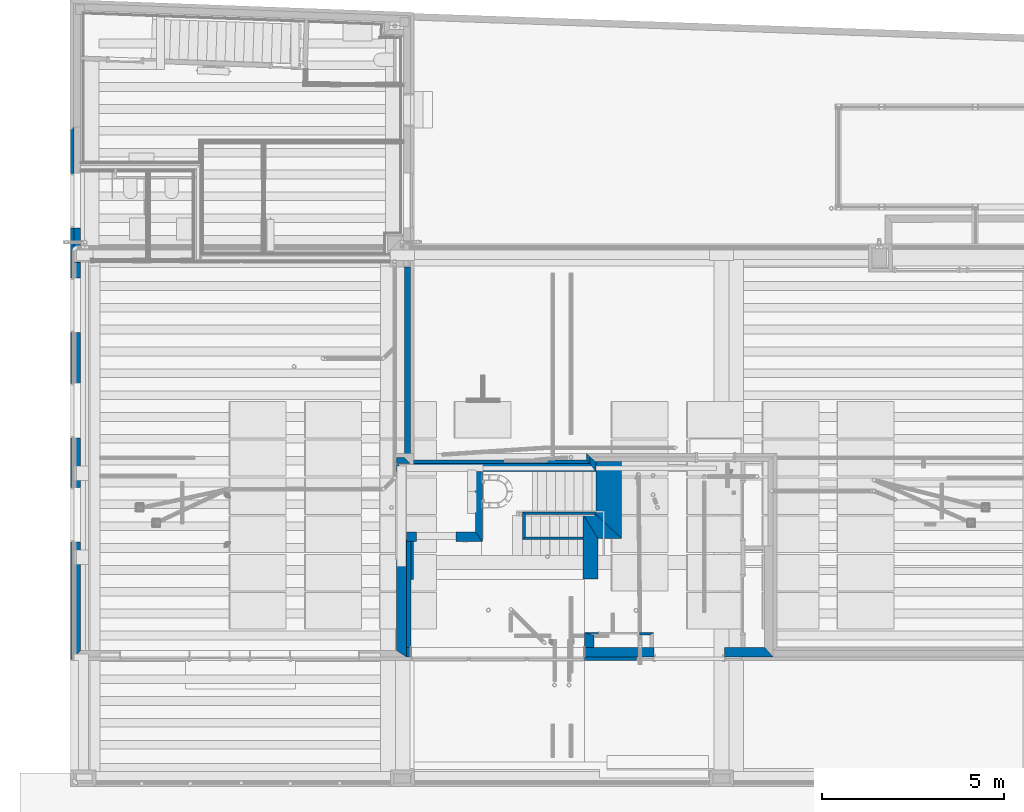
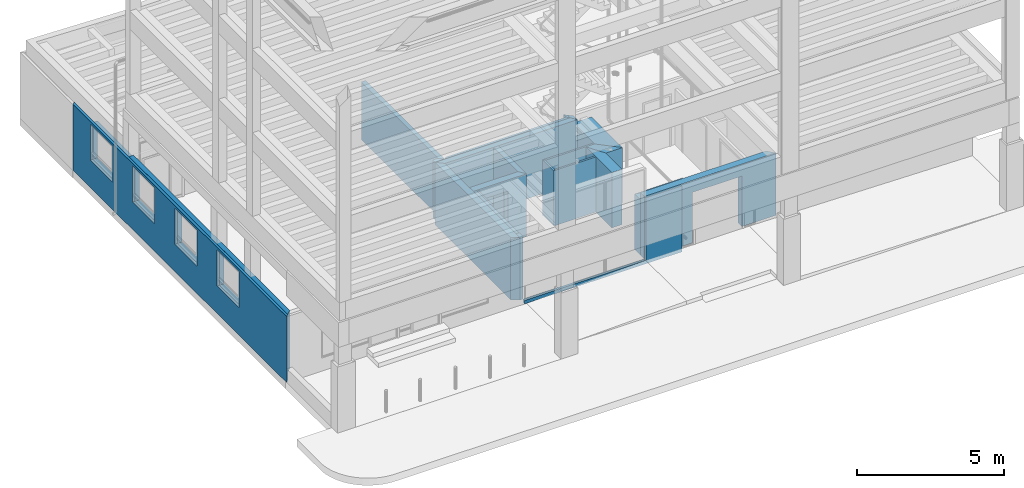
# One storey, part 7 of 106: 24 walls, 13 openings.
"""IFC2X3 building model written with IfcOpenShell, lengths in metres."""

from ifc_helpers import new_model, entity, si_unit, converted_unit, derived_unit, money_unit, direction, frame, frame_2d, origin_with_axes, place, context, subcontext, project, spatial, polyline, rectangle, outline, extrude, faceted_brep, material, layer, layer_set, layer_usage, type_object, element, save


model = new_model("IFC2X3")

# Units and contexts
model_context = context("Model", 3, precision=1e-05, world=origin_with_axes(), true_north=direction((0.0, 1.0)))
body_context = subcontext(model_context, "Body", "Model", "MODEL_VIEW", scale=1.0)
ifc_project = project(units=[si_unit("LENGTHUNIT", "METRE"), si_unit("AREAUNIT", "SQUARE_METRE"), si_unit("VOLUMEUNIT", "CUBIC_METRE"), si_unit("ABSORBEDDOSEUNIT", "GRAY"), si_unit("AMOUNTOFSUBSTANCEUNIT", "MOLE"), si_unit("DOSEEQUIVALENTUNIT", "SIEVERT"), si_unit("ELECTRICCAPACITANCEUNIT", "FARAD"), si_unit("ELECTRICCHARGEUNIT", "COULOMB"), si_unit("ELECTRICCONDUCTANCEUNIT", "SIEMENS"), si_unit("ELECTRICCURRENTUNIT", "AMPERE"), si_unit("ELECTRICRESISTANCEUNIT", "OHM"), si_unit("ELECTRICVOLTAGEUNIT", "VOLT"), si_unit("ENERGYUNIT", "JOULE"), si_unit("FORCEUNIT", "NEWTON"), si_unit("FREQUENCYUNIT", "HERTZ"), si_unit("ILLUMINANCEUNIT", "LUX"), si_unit("INDUCTANCEUNIT", "HENRY"), si_unit("LUMINOUSFLUXUNIT", "LUMEN"), si_unit("LUMINOUSINTENSITYUNIT", "CANDELA"), si_unit("MAGNETICFLUXDENSITYUNIT", "TESLA"), si_unit("MAGNETICFLUXUNIT", "WEBER"), si_unit("MASSUNIT", "GRAM"), converted_unit("PLANEANGLEUNIT", "degree", entity("IfcReal", 0.0174532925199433), si_unit("PLANEANGLEUNIT", "RADIAN"), dimensions=[0, 0, 0, 0, 0, 0, 0]), si_unit("POWERUNIT", "WATT"), si_unit("PRESSUREUNIT", "PASCAL"), si_unit("RADIOACTIVITYUNIT", "BECQUEREL"), si_unit("SOLIDANGLEUNIT", "STERADIAN"), si_unit("THERMODYNAMICTEMPERATUREUNIT", "KELVIN"), si_unit("TIMEUNIT", "SECOND"), derived_unit("ACCELERATIONUNIT", [(si_unit("LENGTHUNIT", "METRE"), 1), (si_unit("TIMEUNIT", "SECOND"), -2)]), derived_unit("ANGULARVELOCITYUNIT", [(converted_unit("PLANEANGLEUNIT", "degree", entity("IfcReal", 0.0174532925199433), si_unit("PLANEANGLEUNIT", "RADIAN"), dimensions=[0, 0, 0, 0, 0, 0, 0]), 1), (si_unit("TIMEUNIT", "SECOND"), -1)]), derived_unit("CURVATUREUNIT", [(converted_unit("PLANEANGLEUNIT", "degree", entity("IfcReal", 0.0174532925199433), si_unit("PLANEANGLEUNIT", "RADIAN"), dimensions=[0, 0, 0, 0, 0, 0, 0]), 1), (si_unit("LENGTHUNIT", "METRE"), -1)]), derived_unit("DYNAMICVISCOSITYUNIT", [(si_unit("PRESSUREUNIT", "PASCAL"), 1), (si_unit("TIMEUNIT", "SECOND"), 1)]), derived_unit("HEATFLUXDENSITYUNIT", [(si_unit("POWERUNIT", "WATT"), 1), (si_unit("LENGTHUNIT", "METRE"), -2)]), derived_unit("HEATINGVALUEUNIT", [(si_unit("ENERGYUNIT", "JOULE"), 1), (si_unit("MASSUNIT", "GRAM"), -1)]), derived_unit("INTEGERCOUNTRATEUNIT", [(si_unit("TIMEUNIT", "SECOND"), -1)]), derived_unit("IONCONCENTRATIONUNIT", [(si_unit("MASSUNIT", "GRAM"), 1), (si_unit("VOLUMEUNIT", "CUBIC_METRE"), -1)]), derived_unit("ISOTHERMALMOISTURECAPACITYUNIT", [(si_unit("VOLUMEUNIT", "CUBIC_METRE"), 1), (si_unit("MASSUNIT", "GRAM"), -1)]), derived_unit("KINEMATICVISCOSITYUNIT", [(si_unit("AREAUNIT", "SQUARE_METRE"), 1), (si_unit("TIMEUNIT", "SECOND"), -1)]), derived_unit("LINEARFORCEUNIT", [(si_unit("FORCEUNIT", "NEWTON"), 1), (si_unit("LENGTHUNIT", "METRE"), -1)]), derived_unit("LINEARMOMENTUNIT", [(si_unit("FORCEUNIT", "NEWTON"), 1), (si_unit("LENGTHUNIT", "METRE"), -1)]), derived_unit("LINEARSTIFFNESSUNIT", [(si_unit("FORCEUNIT", "NEWTON"), 1), (si_unit("LENGTHUNIT", "METRE"), -1)]), derived_unit("LINEARVELOCITYUNIT", [(si_unit("LENGTHUNIT", "METRE"), 1), (si_unit("TIMEUNIT", "SECOND"), -1)]), derived_unit("LUMINOUSINTENSITYDISTRIBUTIONUNIT", [(si_unit("LUMINOUSINTENSITYUNIT", "CANDELA"), 1), (si_unit("LUMINOUSFLUXUNIT", "LUMEN"), -1)]), derived_unit("MASSDENSITYUNIT", [(si_unit("MASSUNIT", "GRAM"), 1), (si_unit("VOLUMEUNIT", "CUBIC_METRE"), -1)]), derived_unit("MASSFLOWRATEUNIT", [(si_unit("MASSUNIT", "GRAM"), 1), (si_unit("TIMEUNIT", "SECOND"), -1)]), derived_unit("MASSPERLENGTHUNIT", [(si_unit("MASSUNIT", "GRAM"), 1), (si_unit("LENGTHUNIT", "METRE"), -1)]), derived_unit("MODULUSOFELASTICITYUNIT", [(si_unit("FORCEUNIT", "NEWTON"), 1), (si_unit("AREAUNIT", "SQUARE_METRE"), -1)]), derived_unit("MODULUSOFLINEARSUBGRADEREACTIONUNIT", [(si_unit("FORCEUNIT", "NEWTON"), 1), (si_unit("LENGTHUNIT", "METRE"), -2)]), derived_unit("MODULUSOFROTATIONALSUBGRADEREACTIONUNIT", [(si_unit("FORCEUNIT", "NEWTON"), 1), (si_unit("LENGTHUNIT", "METRE"), 1)]), derived_unit("MODULUSOFSUBGRADEREACTIONUNIT", [(si_unit("FORCEUNIT", "NEWTON"), 1), (si_unit("VOLUMEUNIT", "CUBIC_METRE"), -1)]), derived_unit("MOISTUREDIFFUSIVITYUNIT", [(si_unit("VOLUMEUNIT", "CUBIC_METRE"), 1), (si_unit("TIMEUNIT", "SECOND"), -1)]), derived_unit("MOLECULARWEIGHTUNIT", [(si_unit("MASSUNIT", "GRAM"), 1), (si_unit("AMOUNTOFSUBSTANCEUNIT", "MOLE"), -1)]), derived_unit("PLANARFORCEUNIT", [(si_unit("FORCEUNIT", "NEWTON"), 1), (si_unit("LENGTHUNIT", "METRE"), -2)]), derived_unit("ROTATIONALFREQUENCYUNIT", [(si_unit("TIMEUNIT", "SECOND"), -1)]), derived_unit("ROTATIONALMASSUNIT", [(si_unit("MASSUNIT", "GRAM"), 1), (si_unit("LENGTHUNIT", "METRE"), 2)]), derived_unit("ROTATIONALSTIFFNESSUNIT", [(si_unit("FORCEUNIT", "NEWTON"), 1), (si_unit("LENGTHUNIT", "METRE"), 1), (converted_unit("PLANEANGLEUNIT", "degree", entity("IfcReal", 0.0174532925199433), si_unit("PLANEANGLEUNIT", "RADIAN"), dimensions=[0, 0, 0, 0, 0, 0, 0]), -1)]), derived_unit("SECTIONAREAINTEGRALUNIT", [(si_unit("LENGTHUNIT", "METRE"), 5)]), derived_unit("SECTIONMODULUSUNIT", [(si_unit("LENGTHUNIT", "METRE"), 3)]), derived_unit("SHEARMODULUSUNIT", [(si_unit("FORCEUNIT", "NEWTON"), 1), (si_unit("AREAUNIT", "SQUARE_METRE"), -1)]), derived_unit("SOUNDPOWERUNIT", [(si_unit("ENERGYUNIT", "JOULE"), 1), (si_unit("TIMEUNIT", "SECOND"), -1)]), derived_unit("SPECIFICHEATCAPACITYUNIT", [(si_unit("FORCEUNIT", "NEWTON"), 1), (si_unit("MASSUNIT", "GRAM"), -1), (si_unit("THERMODYNAMICTEMPERATUREUNIT", "KELVIN"), -1)]), derived_unit("TEMPERATUREGRADIENTUNIT", [(si_unit("THERMODYNAMICTEMPERATUREUNIT", "KELVIN"), 1), (si_unit("LENGTHUNIT", "METRE"), -1)]), derived_unit("THERMALADMITTANCEUNIT", [(si_unit("POWERUNIT", "WATT"), 1), (si_unit("AREAUNIT", "SQUARE_METRE"), -1), (si_unit("THERMODYNAMICTEMPERATUREUNIT", "KELVIN"), -1)]), derived_unit("THERMALCONDUCTANCEUNIT", [(si_unit("POWERUNIT", "WATT"), 1), (si_unit("LENGTHUNIT", "METRE"), -1), (si_unit("THERMODYNAMICTEMPERATUREUNIT", "KELVIN"), -1)]), derived_unit("THERMALEXPANSIONCOEFFICIENTUNIT", [(si_unit("THERMODYNAMICTEMPERATUREUNIT", "KELVIN"), -1)]), derived_unit("THERMALRESISTANCEUNIT", [(si_unit("AREAUNIT", "SQUARE_METRE"), 1), (si_unit("POWERUNIT", "WATT"), -1)]), derived_unit("THERMALTRANSMITTANCEUNIT", [(si_unit("POWERUNIT", "WATT"), 1), (si_unit("AREAUNIT", "SQUARE_METRE"), -1), (si_unit("THERMODYNAMICTEMPERATUREUNIT", "KELVIN"), -1)]), derived_unit("TORQUEUNIT", [(si_unit("FORCEUNIT", "NEWTON"), 1), (si_unit("LENGTHUNIT", "METRE"), 1)]), derived_unit("VAPORPERMEABILITYUNIT", [(si_unit("MASSUNIT", "GRAM"), 1), (si_unit("TIMEUNIT", "SECOND"), -1)]), derived_unit("VOLUMETRICFLOWRATEUNIT", [(si_unit("VOLUMEUNIT", "CUBIC_METRE"), 1), (si_unit("TIMEUNIT", "SECOND"), -1)]), derived_unit("WARPINGCONSTANTUNIT", [(si_unit("LENGTHUNIT", "METRE"), 6)]), derived_unit("WARPINGMOMENTUNIT", [(si_unit("FORCEUNIT", "NEWTON"), 1), (si_unit("LENGTHUNIT", "METRE"), 2)]), money_unit("GBP")], contexts=[model_context])

# Site, building, storey
site_placement = place(None, origin_with_axes())
site = spatial("IfcSite", under=ifc_project, at=site_placement, Name="Site", CompositionType="ELEMENT")
building_placement = place(site_placement, origin_with_axes())
building = spatial("IfcBuilding", under=site, at=building_placement, Name="Building01", CompositionType="ELEMENT")
storey_placement = place(building_placement, origin_with_axes())
storey = spatial("IfcBuildingStorey", under=building, at=storey_placement, Name="GF", CompositionType="ELEMENT", Elevation=0.0)

# Wall
ifc_material_1 = material(Name="A_BSUK_WallsExternal_Brick")
ifc_layer_1 = layer(ifc_material_1, 0.1, ventilated=False)
ifc_layer_set_1 = layer_set([ifc_layer_1])
ifc_layer_usage_1 = layer_usage(ifc_layer_set_1, "AXIS2", "POSITIVE", 0.0)
wall_type_1 = type_object("IfcWallType", Name="A-Walls-ExternalBrick", PredefinedType="NOTDEFINED")
wall_1_placement = place(storey_placement, frame((14.172347, 8.971346, -0.16), z_axis=(0.0, 0.0, 1.0), x_axis=(-1.0, 3.756e-05, 0.0)))
element("IfcWallStandardCase", 1, at=wall_1_placement, inside=storey, type_object=wall_type_1, material=ifc_layer_usage_1, Name="A-Walls-ExternalBrick", ObjectType="A-Walls-ExternalBrick", context=body_context, shape_type="SweptSolid", body=[
    extrude(outline(polyline([(4.829309, 0.1), (-0.1, 0.1), (0.0, 0.0), (4.729309, 0.0), (4.829309, 0.1)])), origin_with_axes(), (0.0, 0.0, 1.0), 2.76),
])

# Wall, openings
wall_2_placement = place(storey_placement, frame((0.000677, 18.020229, -0.145), z_axis=(0.0, 0.0, 1.0), x_axis=(-3.756e-05, -1.0, 0.0)))
wall_2 = element("IfcWallStandardCase", 2, at=wall_2_placement, inside=storey, type_object=wall_type_1, material=ifc_layer_usage_1, Name="A-Walls-ExternalBrick", ObjectType="A-Walls-ExternalBrick", context=body_context, shape_type="SweptSolid", body=[
    extrude(outline(polyline([(14.460712, 0.1), (-0.100004, 0.1), (0.0, 0.0), (14.560712, 0.0), (14.460712, 0.1)])), origin_with_axes(), (0.0, 0.0, 1.0), 2.745),
])
opening_1_placement = place(wall_2_placement, frame((6.944757, 0.0, 1.143), z_axis=(0.0, 0.0, 1.0), x_axis=(1.0, 0.0, 0.0)))
element("IfcOpeningElement", 3, at=opening_1_placement, cuts=wall_2, Name="Opening", ObjectType="Opening", context=body_context, shape_type="Brep", body=[
    faceted_brep([(1.5, 0.1, 0.0), (0.0, 0.1, 0.0), (0.0, 0.1, 1.5), (1.5, 0.1, 1.5), (4e-06, 0.0, 0.0), (1.500004, 0.0, 0.0), (4e-06, 0.0, 1.5), (1.500004, 0.0, 1.5)], [[[0, 1, 2, 3]], [[4, 1, 0, 5]], [[6, 2, 1, 4]], [[5, 0, 3, 7]], [[4, 5, 7, 6]], [[7, 3, 2, 6]]]),
])
opening_2_placement = place(wall_2_placement, frame((9.809487, 0.0, 1.143), z_axis=(0.0, 0.0, 1.0), x_axis=(1.0, 0.0, 0.0)))
element("IfcOpeningElement", 4, at=opening_2_placement, cuts=wall_2, Name="Opening", ObjectType="Opening", context=body_context, shape_type="Brep", body=[
    faceted_brep([(1.5, 0.1, 0.0), (0.0, 0.1, 0.0), (0.0, 0.1, 1.5), (1.5, 0.1, 1.5), (4e-06, 0.0, 1.5), (4e-06, 0.0, 0.0), (1.500004, 0.0, 1.5), (1.500004, 0.0, 0.0)], [[[0, 1, 2, 3]], [[4, 2, 1, 5]], [[6, 3, 2, 4]], [[7, 0, 3, 6]], [[5, 7, 6, 4]], [[5, 1, 0, 7]]]),
])
opening_3_placement = place(wall_2_placement, frame((4.051232, 0.0, 1.143), z_axis=(0.0, 0.0, 1.0), x_axis=(1.0, 0.0, 0.0)))
element("IfcOpeningElement", 5, at=opening_3_placement, cuts=wall_2, Name="Opening", ObjectType="Opening", context=body_context, shape_type="Brep", body=[
    faceted_brep([(1.5, 0.1, 0.0), (0.0, 0.1, 0.0), (0.0, 0.1, 1.5), (1.5, 0.1, 1.5), (4e-06, 0.0, 0.0), (1.500004, 0.0, 0.0), (4e-06, 0.0, 1.5), (1.500004, 0.0, 1.5)], [[[0, 1, 2, 3]], [[4, 1, 0, 5]], [[6, 2, 1, 4]], [[5, 0, 3, 7]], [[4, 5, 7, 6]], [[7, 3, 2, 6]]]),
])
opening_4_placement = place(wall_2_placement, frame((1.177435, 0.0, 1.143), z_axis=(0.0, 0.0, 1.0), x_axis=(1.0, 0.0, 0.0)))
element("IfcOpeningElement", 6, at=opening_4_placement, cuts=wall_2, Name="Opening", ObjectType="Opening", context=body_context, shape_type="Brep", body=[
    faceted_brep([(1.5, 0.1, 0.0), (0.0, 0.1, 0.0), (0.0, 0.1, 1.5), (1.5, 0.1, 1.5), (4e-06, 0.0, 1.5), (4e-06, 0.0, 0.0), (1.500004, 0.0, 1.5), (1.500004, 0.0, 0.0)], [[[0, 1, 2, 3]], [[4, 2, 1, 5]], [[6, 3, 2, 4]], [[7, 0, 3, 6]], [[5, 7, 6, 4]], [[5, 1, 0, 7]]]),
])

# Wall, opening
wall_3_placement = place(storey_placement, frame((9.354092, 3.458823, -0.145), z_axis=(0.0, 0.0, 1.0), x_axis=(1.0, -3.756e-05, 0.0)))
wall_3 = element("IfcWallStandardCase", 7, at=wall_3_placement, inside=storey, type_object=wall_type_1, material=ifc_layer_usage_1, Name="A-Walls-ExternalBrick", ObjectType="A-Walls-ExternalBrick", context=body_context, shape_type="SweptSolid", body=[
    extrude(rectangle(XDim=6.191074, YDim=0.1, at=frame_2d((3.095537, 0.05), x_axis=(-1.0, 0.0))), origin_with_axes(), (0.0, 0.0, 1.0), 2.745),
])
opening_5_placement = place(wall_3_placement, frame((4e-06, 0.0, 0.145), z_axis=(0.0, 0.0, 1.0), x_axis=(1.0, 0.0, 0.0)))
element("IfcOpeningElement", 8, at=opening_5_placement, cuts=wall_3, Name="Opening", ObjectType="Opening", context=body_context, shape_type="Brep", body=[
    faceted_brep([(0.0, 0.1, 2.6), (4e-06, 0.0, 2.6), (4.770004, 0.0, 2.6), (4.77, 0.1, 2.6), (4e-06, 0.0, 0.0), (4.770004, 0.0, 0.0), (0.0, 0.1, 0.0), (4.77, 0.1, 0.0)], [[[0, 1, 2, 3]], [[1, 4, 5, 2]], [[6, 0, 3, 7]], [[0, 6, 4, 1]], [[4, 6, 7, 5]], [[2, 5, 7, 3]]]),
])

# Walls
ifc_material_2 = material(Name="A_BSUK_WallsExternal_Block")
ifc_layer_2 = layer(ifc_material_2, 0.1, ventilated=False)
ifc_layer_set_2 = layer_set([ifc_layer_2])
ifc_layer_usage_2 = layer_usage(ifc_layer_set_2, "AXIS2", "POSITIVE", 0.0)
wall_type_2 = type_object("IfcWallType", Name="A-Walls-ExternalBlock", PredefinedType="NOTDEFINED")
wall_4_placement = place(storey_placement, frame((14.172354, 9.15305, -0.16), z_axis=(0.0, 0.0, 1.0), x_axis=(-3.756e-05, -1.0, 0.0)))
element("IfcWallStandardCase", 9, at=wall_4_placement, inside=storey, type_object=wall_type_2, material=ifc_layer_usage_2, Name="A-Walls-ExternalBlock", ObjectType="A-Walls-ExternalBlock", context=body_context, shape_type="SweptSolid", body=[
    extrude(outline(polyline([(0.281704, 0.1), (0.1, 0.1), (0.0, 0.0), (0.181704, 0.0), (0.281704, 0.1)])), origin_with_axes(), (0.0, 0.0, 1.0), 2.76),
])
ifc_layer_3 = layer(ifc_material_2, 0.17, ventilated=False)
ifc_layer_set_3 = layer_set([ifc_layer_3])
ifc_layer_usage_3 = layer_usage(ifc_layer_set_3, "AXIS2", "POSITIVE", 0.0)
wall_5_placement = place(storey_placement, frame((9.173127, 14.271539, 0.198), z_axis=(0.0, 0.0, 1.0), x_axis=(0.0, -1.0, 0.0)))
element("IfcWallStandardCase", 10, at=wall_5_placement, inside=storey, type_object=wall_type_2, material=ifc_layer_usage_3, Name="A-Walls-ExternalBlock", ObjectType="A-Walls-ExternalBlock", context=body_context, shape_type="SweptSolid", body=[
    extrude(outline(polyline([(5.400398, 0.17), (0.0, 0.17), (0.0, 0.0), (5.236398, 0.0), (5.400398, 0.17)])), origin_with_axes(), (0.0, 0.0, 1.0), 2.402),
])
ifc_layer_4 = layer(ifc_material_2, 0.264900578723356, ventilated=False)
ifc_layer_set_4 = layer_set([ifc_layer_4])
ifc_layer_usage_4 = layer_usage(ifc_layer_set_4, "AXIS2", "POSITIVE", 0.0)
wall_6_placement = place(storey_placement, frame((9.229999, 3.559332, 0.0), z_axis=(0.0, 0.0, 1.0), x_axis=(0.0, 1.0, 0.0)))
element("IfcWallStandardCase", 11, at=wall_6_placement, inside=storey, type_object=wall_type_2, material=ifc_layer_usage_4, Name="A-Walls-ExternalBlock", ObjectType="A-Walls-ExternalBlock", context=body_context, shape_type="SweptSolid", body=[
    extrude(outline(polyline([(5.312078, 0.264901), (0.174, 0.264901), (0.0, 0.0), (5.088078, 0.0), (5.312078, 0.264901)])), origin_with_axes(), (0.0, 0.0, 1.0), 2.6),
])
ifc_layer_5 = layer(ifc_material_2, 0.164, ventilated=False)
ifc_layer_set_5 = layer_set([ifc_layer_5])
ifc_layer_usage_5 = layer_usage(ifc_layer_set_5, "AXIS2", "POSITIVE", 0.0)
wall_7_placement = place(storey_placement, frame((9.173127, 9.035141, 0.198), z_axis=(0.0, 0.0, 1.0), x_axis=(-1.0, 0.0, 0.0)))
element("IfcWallStandardCase", 12, at=wall_7_placement, inside=storey, type_object=wall_type_2, material=ifc_layer_usage_5, Name="A-Walls-ExternalBlock", ObjectType="A-Walls-ExternalBlock", context=body_context, shape_type="SweptSolid", body=[
    extrude(outline(polyline([(-0.17, 0.164), (0.0, 0.0), (0.207627, 0.0), (0.207627, 0.164), (-0.17, 0.164)])), origin_with_axes(), (0.0, 0.0, 1.0), 2.402),
])

# Wall, openings
ifc_layer_6 = layer(ifc_material_2, 0.18, ventilated=False)
ifc_layer_set_6 = layer_set([ifc_layer_6])
ifc_layer_usage_6 = layer_usage(ifc_layer_set_6, "AXIS2", "POSITIVE", 0.0)
wall_8_placement = place(storey_placement, frame((0.280357, 3.733332, 0.198), z_axis=(0.0, 0.0, 1.0), x_axis=(3.756e-05, 1.0, 0.0)))
wall_8 = element("IfcWallStandardCase", 13, at=wall_8_placement, inside=storey, type_object=wall_type_2, material=ifc_layer_usage_6, Name="A-Walls-ExternalBlock", ObjectType="A-Walls-ExternalBlock", context=body_context, shape_type="SweptSolid", body=[
    extrude(outline(polyline([(10.65662, 0.18), (-0.174007, 0.18), (0.0, 0.0), (10.65662, 0.0), (10.65662, 0.18)])), origin_with_axes(), (0.0, 0.0, 1.0), 2.402),
])
opening_6_placement = place(wall_8_placement, frame((5.842129, 0.0, 0.8), z_axis=(0.0, 0.0, 1.0), x_axis=(1.0, 0.0, 0.0)))
element("IfcOpeningElement", 14, at=opening_6_placement, cuts=wall_8, Name="Opening", ObjectType="Opening", context=body_context, shape_type="Brep", body=[
    faceted_brep([(1.5, 0.18, 0.0), (0.0, 0.18, 0.0), (0.0, 0.18, 1.5), (1.5, 0.18, 1.5), (1.500007, 0.0, 0.0), (7e-06, 0.0, 0.0), (1.500007, 0.0, 1.5), (7e-06, 0.0, 1.5)], [[[0, 1, 2, 3]], [[0, 4, 5, 1]], [[3, 6, 4, 0]], [[1, 5, 7, 2]], [[5, 4, 6, 7]], [[2, 7, 6, 3]]]),
])
opening_7_placement = place(wall_8_placement, frame((8.735654, 0.0, 0.8), z_axis=(0.0, 0.0, 1.0), x_axis=(1.0, 0.0, 0.0)))
element("IfcOpeningElement", 15, at=opening_7_placement, cuts=wall_8, Name="Opening", ObjectType="Opening", context=body_context, shape_type="Brep", body=[
    faceted_brep([(1.5, 0.18, 0.0), (0.0, 0.18, 0.0), (0.0, 0.18, 1.5), (1.5, 0.18, 1.5), (1.500007, 0.0, 0.0), (7e-06, 0.0, 0.0), (1.500007, 0.0, 1.5), (7e-06, 0.0, 1.5)], [[[0, 1, 2, 3]], [[0, 4, 5, 1]], [[3, 6, 4, 0]], [[1, 5, 7, 2]], [[5, 4, 6, 7]], [[2, 7, 6, 3]]]),
])
opening_8_placement = place(wall_8_placement, frame((2.977399, 0.0, 0.8), z_axis=(0.0, 0.0, 1.0), x_axis=(1.0, 0.0, 0.0)))
element("IfcOpeningElement", 16, at=opening_8_placement, cuts=wall_8, Name="Opening", ObjectType="Opening", context=body_context, shape_type="Brep", body=[
    faceted_brep([(1.5, 0.18, 1.5), (1.5, 0.18, 0.0), (0.0, 0.18, 0.0), (0.0, 0.18, 1.5), (1.500007, 0.0, 0.0), (7e-06, 0.0, 0.0), (1.500007, 0.0, 1.5), (7e-06, 0.0, 1.5)], [[[0, 1, 2, 3]], [[1, 4, 5, 2]], [[6, 4, 1, 0]], [[2, 5, 7, 3]], [[5, 4, 6, 7]], [[3, 7, 6, 0]]]),
])

# Walls
ifc_layer_7 = layer(ifc_material_2, 0.159, ventilated=False)
ifc_layer_set_7 = layer_set([ifc_layer_7])
ifc_layer_usage_7 = layer_usage(ifc_layer_set_7, "AXIS2", "POSITIVE", 0.0)
wall_9_placement = place(storey_placement, frame((14.27235, 9.053145, 0.0), z_axis=(0.0, 0.0, 1.0), x_axis=(0.0, -1.0, 0.0)))
element("IfcWallStandardCase", 17, at=wall_9_placement, inside=storey, type_object=wall_type_2, material=ifc_layer_usage_7, Name="A-Walls-ExternalBlock", ObjectType="A-Walls-ExternalBlock", context=body_context, shape_type="SweptSolid", body=[
    extrude(outline(polyline([(0.405736, 0.159), (0.131, 0.159), (0.0, 0.0), (0.181736, 0.0), (0.405736, 0.159)])), origin_with_axes(), (0.0, 0.0, 1.0), 2.6),
])
ifc_layer_8 = layer(ifc_material_2, 0.224, ventilated=False)
ifc_layer_set_8 = layer_set([ifc_layer_8])
ifc_layer_usage_8 = layer_usage(ifc_layer_set_8, "AXIS2", "POSITIVE", 0.0)
wall_10_placement = place(storey_placement, frame((9.229999, 8.64741, 0.0), z_axis=(0.0, 0.0, 1.0), x_axis=(1.0, 0.0, 0.0)))
element("IfcWallStandardCase", 18, at=wall_10_placement, inside=storey, type_object=wall_type_2, material=ifc_layer_usage_8, Name="A-Walls-ExternalBlock", ObjectType="A-Walls-ExternalBlock", context=body_context, shape_type="SweptSolid", body=[
    extrude(outline(polyline([(5.042351, 0.224), (-0.264901, 0.224), (0.0, 0.0), (5.201351, 0.0), (5.042351, 0.224)])), origin_with_axes(), (0.0, 0.0, 1.0), 2.6),
])
ifc_layer_9 = layer(ifc_material_2, 0.065, ventilated=False)
ifc_layer_set_9 = layer_set([ifc_layer_9])
ifc_layer_usage_9 = layer_usage(ifc_layer_set_9, "AXIS2", "POSITIVE", 0.0)
wall_11_placement = place(storey_placement, frame((9.354099, 6.725761, 0.0), z_axis=(0.0, 0.0, 1.0), x_axis=(0.0, -1.0, 0.0)))
element("IfcWallStandardCase", 19, at=wall_11_placement, inside=storey, type_object=wall_type_2, material=ifc_layer_usage_9, Name="A-Walls-ExternalBlock", ObjectType="A-Walls-ExternalBlock", context=body_context, shape_type="SweptSolid", body=[
    extrude(rectangle(XDim=0.065, YDim=1.032712, at=frame_2d((0.516356, 0.0325), x_axis=(0.0, -1.0))), origin_with_axes(), (0.0, 0.0, 1.0), 2.6),
])

# Wall, openings
ifc_layer_10 = layer(ifc_material_2, 0.265, ventilated=False)
ifc_layer_set_10 = layer_set([ifc_layer_10])
ifc_layer_usage_10 = layer_usage(ifc_layer_set_10, "AXIS2", "POSITIVE", 0.0)
wall_12_placement = place(storey_placement, frame((19.069772, 3.823962, 0.0), z_axis=(0.0, 0.0, 1.0), x_axis=(-1.0, 0.0, 0.0)))
wall_12 = element("IfcWallStandardCase", 20, at=wall_12_placement, inside=storey, type_object=wall_type_2, material=ifc_layer_usage_10, Name="A-Walls-ExternalBlock", ObjectType="A-Walls-ExternalBlock", context=body_context, shape_type="SweptSolid", body=[
    extrude(outline(polyline([(9.839772, 0.265), (-0.233, 0.265), (0.0, 0.0), (9.839772, 0.0), (9.839772, 0.265)])), origin_with_axes(), (0.0, 0.0, 1.0), 2.6),
])
opening_9_placement = place(wall_12_placement, frame((1.109549, 0.0, 0.0), z_axis=(0.0, 0.0, 1.0), x_axis=(1.0, 0.0, 0.0)))
element("IfcOpeningElement", 21, at=opening_9_placement, cuts=wall_12, Name="Opening", ObjectType="Opening", context=body_context, shape_type="SweptSolid", body=[
    extrude(rectangle(XDim=2.1, YDim=1.934, at=frame_2d((-0.967, 1.05), x_axis=(0.0, -1.0))), frame((0.0, 0.0, 0.0), z_axis=(0.0, 1.0, 0.0), x_axis=(-1.0, 0.0, 0.0)), (0.0, 0.0, 1.0), 0.265),
])
opening_10_placement = place(wall_12_placement, frame((4.945672, 0.0, 0.0), z_axis=(0.0, 0.0, 1.0), x_axis=(1.0, 0.0, 0.0)))
element("IfcOpeningElement", 22, at=opening_10_placement, cuts=wall_12, Name="Opening", ObjectType="Opening", context=body_context, shape_type="SweptSolid", body=[
    extrude(rectangle(XDim=3.83, YDim=4.77, at=frame_2d((-2.385, 1.915), x_axis=(0.0, 1.0))), frame((0.0, 0.0, 0.0), z_axis=(0.0, 1.0, 0.0), x_axis=(-1.0, 0.0, 0.0)), (0.0, 0.0, 1.0), 0.265),
])

# Wall
ifc_layer_11 = layer(ifc_material_2, 0.1241, ventilated=False)
ifc_layer_set_11 = layer_set([ifc_layer_11])
ifc_layer_usage_11 = layer_usage(ifc_layer_set_11, "AXIS2", "POSITIVE", 0.0)
wall_13_placement = place(storey_placement, frame((9.229999, 6.725761, 0.0), z_axis=(0.0, 0.0, 1.0), x_axis=(0.0, -1.0, 0.0)))
element("IfcWallStandardCase", 23, at=wall_13_placement, inside=storey, type_object=wall_type_2, material=ifc_layer_usage_11, Name="A-Walls-ExternalBlock", ObjectType="A-Walls-ExternalBlock", context=body_context, shape_type="SweptSolid", body=[
    extrude(rectangle(XDim=2.901799, YDim=0.1241, at=frame_2d((1.4509, 0.06205), x_axis=(-1.0, 0.0))), origin_with_axes(), (0.0, 0.0, 1.0), 2.6),
])

# Wall, opening
ifc_material_3 = material(Name="A_BSUK_WallsInternal_Block")
ifc_layer_12 = layer(ifc_material_3, 0.18, ventilated=False)
ifc_layer_set_12 = layer_set([ifc_layer_12])
ifc_layer_usage_12 = layer_usage(ifc_layer_set_12, "AXIS2", "POSITIVE", 0.0)
wall_type_3 = type_object("IfcWallType", Name="A-Walls-InternalBlock", PredefinedType="NOTDEFINED")
wall_14_placement = place(storey_placement, frame((0.280757, 14.389953, 0.198), z_axis=(0.0, 0.0, 1.0), x_axis=(3.756e-05, 1.0, 0.0)))
wall_14 = element("IfcWallStandardCase", 24, at=wall_14_placement, inside=storey, type_object=wall_type_3, material=ifc_layer_usage_12, Name="A-Walls-InternalBlock", ObjectType="A-Walls-InternalBlock", context=body_context, shape_type="SweptSolid", body=[
    extrude(rectangle(XDim=2.457492, YDim=0.18, at=frame_2d((1.228746, 0.09), x_axis=(-1.0, 0.0))), origin_with_axes(), (0.0, 0.0, 1.0), 2.337),
])
opening_11_placement = place(wall_14_placement, frame((0.95283, 0.0, 0.8), z_axis=(0.0, 0.0, 1.0), x_axis=(1.0, 0.0, 0.0)))
element("IfcOpeningElement", 25, at=opening_11_placement, cuts=wall_14, Name="Opening", ObjectType="Opening", context=body_context, shape_type="Brep", body=[
    faceted_brep([(1.5, 0.18, 1.5), (1.5, 0.18, 0.0), (0.0, 0.18, 0.0), (0.0, 0.18, 1.5), (1.500007, 0.0, 0.0), (7e-06, 0.0, 0.0), (1.500007, 0.0, 1.5), (7e-06, 0.0, 1.5)], [[[0, 1, 2, 3]], [[1, 4, 5, 2]], [[6, 4, 1, 0]], [[2, 5, 7, 3]], [[5, 4, 6, 7]], [[3, 7, 6, 0]]]),
])

# Wall
ifc_layer_13 = layer(ifc_material_3, 0.193800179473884, ventilated=False)
ifc_layer_set_13 = layer_set([ifc_layer_13])
ifc_layer_usage_13 = layer_usage(ifc_layer_set_13, "AXIS2", "POSITIVE", 0.0)
wall_15_placement = place(storey_placement, frame((11.13, 8.64741, 0.0), z_axis=(0.0, 0.0, 1.0), x_axis=(0.0, -1.0, 0.0)))
element("IfcWallStandardCase", 26, at=wall_15_placement, inside=storey, type_object=wall_type_3, material=ifc_layer_usage_13, Name="A-Walls-InternalBlock", ObjectType="A-Walls-InternalBlock", context=body_context, shape_type="SweptSolid", body=[
    extrude(outline(polyline([(1.921649, 0.1938), (0.0, 0.1938), (0.0, 0.0), (1.657649, 0.0), (1.921649, 0.1938)])), origin_with_axes(), (0.0, 0.0, 1.0), 2.6),
])

# Wall, opening
ifc_layer_14 = layer(ifc_material_3, 0.264, ventilated=False)
ifc_layer_set_14 = layer_set([ifc_layer_14])
ifc_layer_usage_14 = layer_usage(ifc_layer_set_14, "AXIS2", "POSITIVE", 0.0)
wall_16_placement = place(storey_placement, frame((11.13, 6.989761, 0.0), z_axis=(0.0, 0.0, 1.0), x_axis=(-1.0, 0.0, 0.0)))
wall_16 = element("IfcWallStandardCase", 27, at=wall_16_placement, inside=storey, type_object=wall_type_3, material=ifc_layer_usage_14, Name="A-Walls-InternalBlock", ObjectType="A-Walls-InternalBlock", context=body_context, shape_type="SweptSolid", body=[
    extrude(outline(polyline([(1.900001, 0.264), (-0.1938, 0.264), (0.0, 0.0), (1.900001, 0.0), (1.900001, 0.264)])), origin_with_axes(), (0.0, 0.0, 1.0), 2.6),
])
opening_12_placement = place(wall_16_placement, frame((0.538302, 0.0, 0.0), z_axis=(0.0, 0.0, 1.0), x_axis=(1.0, 0.0, 0.0)))
element("IfcOpeningElement", 28, at=opening_12_placement, cuts=wall_16, Name="Opening", ObjectType="Opening", context=body_context, shape_type="SweptSolid", body=[
    extrude(rectangle(XDim=2.14, YDim=1.08, at=frame_2d((-0.54, 1.07), x_axis=(0.0, -1.0))), frame((0.0, 0.0, 0.0), z_axis=(0.0, 1.0, 0.0), x_axis=(-1.0, 0.0, 0.0)), (0.0, 0.0, 1.0), 0.264),
])

# Walls
ifc_material_4 = material(Name="A_BSUK_WallsInternal")
ifc_layer_15 = layer(ifc_material_4, 0.405, ventilated=False)
ifc_layer_set_15 = layer_set([ifc_layer_15])
ifc_layer_usage_15 = layer_usage(ifc_layer_set_15, "AXIS2", "POSITIVE", 0.0)
wall_type_4 = type_object("IfcWallType", Name="A-Walls-Internal", PredefinedType="NOTDEFINED")
wall_17_placement = place(storey_placement, frame((14.491151, 5.701748, 0.0), z_axis=(0.0, 0.0, 1.0), x_axis=(0.0, 1.0, 0.0)))
element("IfcWallStandardCase", 29, at=wall_17_placement, inside=storey, type_object=wall_type_4, material=ifc_layer_usage_15, Name="A-Walls-Internal", ObjectType="A-Walls-Internal", context=body_context, shape_type="SweptSolid", body=[
    extrude(outline(polyline([(1.772868, 0.405), (0.0, 0.405), (0.0, 0.0), (1.112868, 0.0), (1.772868, 0.405)])), origin_with_axes(), (0.0, 0.0, 1.0), 2.3),
])
ifc_layer_16 = layer(ifc_material_4, 0.66, ventilated=False)
ifc_layer_set_16 = layer_set([ifc_layer_16])
ifc_layer_usage_16 = layer_usage(ifc_layer_set_16, "AXIS2", "POSITIVE", 0.0)
wall_18_placement = place(storey_placement, frame((14.491151, 6.814616, 0.0), z_axis=(0.0, 0.0, 1.0), x_axis=(1.0, 0.0, 0.0)))
element("IfcWallStandardCase", 30, at=wall_18_placement, inside=storey, type_object=wall_type_4, material=ifc_layer_usage_16, Name="A-Walls-Internal", ObjectType="A-Walls-Internal", context=body_context, shape_type="SweptSolid", body=[
    extrude(outline(polyline([(-0.059646, 0.66), (-0.405, 0.66), (0.0, 0.0), (0.651354, 0.0), (-0.059646, 0.66)])), origin_with_axes(), (0.0, 0.0, 1.0), 2.3),
])
ifc_layer_17 = layer(ifc_material_4, 0.073, ventilated=False)
ifc_layer_set_17 = layer_set([ifc_layer_17])
ifc_layer_usage_17 = layer_usage(ifc_layer_set_17, "AXIS2", "POSITIVE", 0.0)
wall_19_placement = place(storey_placement, frame((12.4238, 7.54741, 0.0), z_axis=(0.0, 0.0, 1.0), x_axis=(0.0, -1.0, 0.0)))
element("IfcWallStandardCase", 31, at=wall_19_placement, inside=storey, type_object=wall_type_4, material=ifc_layer_usage_17, Name="A-Walls-Internal", ObjectType="A-Walls-Internal", context=body_context, shape_type="SweptSolid", body=[
    extrude(outline(polyline([(0.687877, 0.073), (0.073, 0.073), (0.0, 0.0), (0.760877, 0.0), (0.687877, 0.073)])), origin_with_axes(), (0.0, 0.0, 1.0), 2.3),
])
wall_20_placement = place(storey_placement, frame((12.4238, 6.786533, 0.0), z_axis=(0.0, 0.0, 1.0), x_axis=(1.0, 0.0, 0.0)))
element("IfcWallStandardCase", 32, at=wall_20_placement, inside=storey, type_object=wall_type_4, material=ifc_layer_usage_17, Name="A-Walls-Internal", ObjectType="A-Walls-Internal", context=body_context, shape_type="SweptSolid", body=[
    extrude(outline(polyline([(0.073, 0.073), (0.0, 0.0), (1.662466, 0.0), (1.662466, 0.073), (0.073, 0.073)])), origin_with_axes(), (0.0, 0.0, 1.0), 2.3),
])
ifc_layer_18 = layer(ifc_material_4, 0.263, ventilated=False)
ifc_layer_set_18 = layer_set([ifc_layer_18])
ifc_layer_usage_18 = layer_usage(ifc_layer_set_18, "AXIS2", "POSITIVE", 0.0)
wall_21_placement = place(storey_placement, frame((14.38433, 3.823962, 0.0), z_axis=(0.0, 0.0, 1.0), x_axis=(0.0, 1.0, 0.0)))
element("IfcWallStandardCase", 33, at=wall_21_placement, inside=storey, type_object=wall_type_4, material=ifc_layer_usage_18, Name="A-Walls-Internal", ObjectType="A-Walls-Internal", context=body_context, shape_type="SweptSolid", body=[
    extrude(outline(polyline([(0.403508, 0.263), (0.0, 0.263), (0.0, 0.0), (0.333508, 0.0), (0.403508, 0.263)])), origin_with_axes(), (0.0, 0.0, 1.0), 2.3),
])

# Wall, opening
ifc_layer_19 = layer(ifc_material_4, 0.07, ventilated=False)
ifc_layer_set_19 = layer_set([ifc_layer_19])
ifc_layer_usage_19 = layer_usage(ifc_layer_set_19, "AXIS2", "POSITIVE", 0.0)
wall_22_placement = place(storey_placement, frame((16.022644, 4.22747, 0.0), z_axis=(0.0, 0.0, 1.0), x_axis=(-1.0, 0.0, 0.0)))
wall_22 = element("IfcWallStandardCase", 34, at=wall_22_placement, inside=storey, type_object=wall_type_4, material=ifc_layer_usage_19, Name="A-Walls-Internal", ObjectType="A-Walls-Internal", context=body_context, shape_type="SweptSolid", body=[
    extrude(outline(polyline([(1.638314, 0.07), (0.107, 0.07), (0.0, 0.0), (1.901314, 0.0), (1.638314, 0.07)])), origin_with_axes(), (0.0, 0.0, 1.0), 2.3),
])
opening_13_placement = place(wall_22_placement, frame((0.395883, 0.0, 0.0), z_axis=(0.0, 0.0, 1.0), x_axis=(1.0, 0.0, 0.0)))
element("IfcOpeningElement", 35, at=opening_13_placement, cuts=wall_22, Name="Opening", ObjectType="Opening", context=body_context, shape_type="Brep", body=[
    faceted_brep([(0.0, 0.0, 2.1), (0.0, 0.0, 0.0), (1.124, 0.0, 0.0), (1.124, 0.0, 2.1), (3e-06, 0.07, 0.0), (3e-06, 0.07, 2.1), (1.124003, 0.07, 2.1), (1.124003, 0.07, 0.0)], [[[0, 1, 2, 3]], [[4, 5, 6, 7]], [[1, 4, 7, 2]], [[5, 0, 3, 6]], [[4, 1, 0, 5]], [[6, 3, 2, 7]]]),
])

# Walls
ifc_layer_20 = layer(ifc_material_4, 0.711, ventilated=False)
ifc_layer_set_20 = layer_set([ifc_layer_20])
ifc_layer_usage_20 = layer_usage(ifc_layer_set_20, "AXIS2", "POSITIVE", 0.0)
wall_23_placement = place(storey_placement, frame((15.142505, 6.814616, 0.0), z_axis=(0.0, 0.0, 1.0), x_axis=(0.0, 1.0, 0.0)))
element("IfcWallStandardCase", 36, at=wall_23_placement, inside=storey, type_object=wall_type_4, material=ifc_layer_usage_20, Name="A-Walls-Internal", ObjectType="A-Walls-Internal", context=body_context, shape_type="SweptSolid", body=[
    extrude(outline(polyline([(2.107529, 0.711), (0.66, 0.711), (0.0, 0.0), (2.107529, 0.0), (2.107529, 0.711)])), origin_with_axes(), (0.0, 0.0, 1.0), 2.3),
])
wall_24_placement = place(storey_placement, frame((12.4238, 7.54741, 0.0), z_axis=(0.0, 0.0, 1.0), x_axis=(1.0, 0.0, 0.0)))
element("IfcWallStandardCase", 37, at=wall_24_placement, inside=storey, type_object=wall_type_4, material=ifc_layer_usage_17, Name="A-Walls-Internal", ObjectType="A-Walls-Internal", context=body_context, shape_type="SweptSolid", body=[
    extrude(outline(polyline([(2.007705, 0.0), (0.0, 0.0), (0.073, -0.073), (2.007705, -0.073), (2.007705, 0.0)])), origin_with_axes(), (0.0, 0.0, 1.0), 2.3),
])

save(model, "model.ifc")
